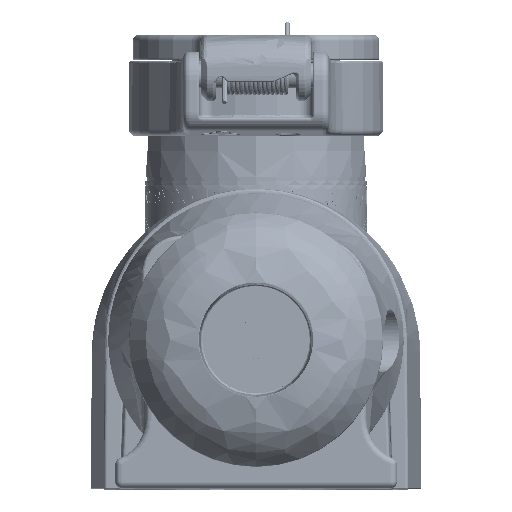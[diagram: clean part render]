
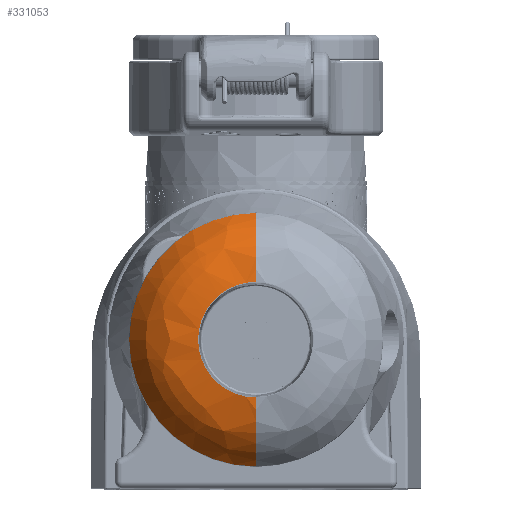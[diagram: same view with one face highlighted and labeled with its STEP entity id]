
A CAD part, top view. The second image highlights one B-rep face of the part: STEP entity #331053.
In plain terms, the highlighted free-form (B-spline) face has degree [3, 3] with [7, 4] control points.
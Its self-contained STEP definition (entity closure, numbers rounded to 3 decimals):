
#327035=CARTESIAN_POINT('',(0.,2.921,0.));
#327036=DIRECTION('',(0.,1.,0.));
#327037=DIRECTION('',(-1.,0.,0.));
#327038=AXIS2_PLACEMENT_3D('',#327035,#327036,#327037);
#327050=CARTESIAN_POINT('',(9.15,-2.126,0.));
#327051=DIRECTION('',(0.,0.,1.));
#327052=DIRECTION('',(0.907,0.421,0.));
#327053=AXIS2_PLACEMENT_3D('',#327050,#327051,#327052);
#327055=CARTESIAN_POINT('',(-9.15,-2.126,0.));
#327056=DIRECTION('',(0.,0.,-1.));
#327057=DIRECTION('',(-0.907,0.421,0.));
#327058=AXIS2_PLACEMENT_3D('',#327055,#327056,#327057);
#327080=CARTESIAN_POINT('',(0.,9.874,0.));
#327081=DIRECTION('',(0.,-1.,0.));
#327082=DIRECTION('',(1.,0.,0.));
#327083=AXIS2_PLACEMENT_3D('',#327080,#327081,#327082);
#330011=CARTESIAN_POINT('',(9.15,9.874,0.));
#330012=CARTESIAN_POINT('',(-9.15,9.874,0.));
#330013=VERTEX_POINT('',#330011);
#330014=VERTEX_POINT('',#330012);
#330031=CARTESIAN_POINT('',(20.037,2.921,
0.));
#330032=CARTESIAN_POINT('',(-20.037,2.921,
0.));
#330033=VERTEX_POINT('',#330031);
#330034=VERTEX_POINT('',#330032);
#331015=CARTESIAN_POINT('',(8.86,9.871,
-0.557));
#331016=CARTESIAN_POINT('',(13.875,9.985,
-0.873));
#331017=CARTESIAN_POINT('',(18.103,7.28,
-1.139));
#331018=CARTESIAN_POINT('',(20.109,2.672,
-1.265));
#331019=CARTESIAN_POINT('',(9.203,9.871,
4.895));
#331020=CARTESIAN_POINT('',(14.412,9.985,
7.666));
#331021=CARTESIAN_POINT('',(18.804,7.28,
10.002));
#331022=CARTESIAN_POINT('',(20.888,2.672,
11.11));
#331023=CARTESIAN_POINT('',(5.463,9.871,
8.877));
#331024=CARTESIAN_POINT('',(8.556,9.985,
13.902));
#331025=CARTESIAN_POINT('',(11.163,7.28,
18.139));
#331026=CARTESIAN_POINT('',(12.4,2.672,
20.149));
#331027=CARTESIAN_POINT('',(0.,9.871,8.877));
#331028=CARTESIAN_POINT('',(0.,9.985,13.902));
#331029=CARTESIAN_POINT('',(0.,7.28,18.139));
#331030=CARTESIAN_POINT('',(0.,2.672,20.149));
#331031=CARTESIAN_POINT('',(-5.463,9.871,
8.877));
#331032=CARTESIAN_POINT('',(-8.556,9.985,
13.902));
#331033=CARTESIAN_POINT('',(-11.163,7.28,
18.139));
#331034=CARTESIAN_POINT('',(-12.4,2.672,
20.149));
#331035=CARTESIAN_POINT('',(-9.203,9.871,
4.895));
#331036=CARTESIAN_POINT('',(-14.412,9.985,
7.666));
#331037=CARTESIAN_POINT('',(-18.804,7.28,
10.002));
#331038=CARTESIAN_POINT('',(-20.888,2.672,
11.11));
#331039=CARTESIAN_POINT('',(-8.86,9.871,
-0.557));
#331040=CARTESIAN_POINT('',(-13.875,9.985,
-0.873));
#331041=CARTESIAN_POINT('',(-18.103,7.28,
-1.139));
#331042=CARTESIAN_POINT('',(-20.109,2.672,
-1.265));
#331043=(BOUNDED_SURFACE()B_SPLINE_SURFACE(3,3,((#331015,#331016,#331017,
#331018),(#331019,#331020,#331021,#331022),(#331023,#331024,#331025,#331026),(
#331027,#331028,#331029,#331030),(#331031,#331032,#331033,#331034),(#331035,
#331036,#331037,#331038),(#331039,#331040,#331041,#331042)),.UNSPECIFIED.,.F.,
.F.,.F.)B_SPLINE_SURFACE_WITH_KNOTS((4,3,4),(4,4),(0.,1.,2.),(0.,1.),
.UNSPECIFIED.)GEOMETRIC_REPRESENTATION_ITEM()RATIONAL_B_SPLINE_SURFACE(((
1.297,1.151,1.151,1.297),(
1.024,0.909,0.909,1.024),(
1.024,0.909,0.909,1.024),(
1.297,1.151,1.151,1.297),(
1.024,0.909,0.909,1.024),(
1.024,0.909,0.909,1.024),(
1.297,1.151,1.151,1.297)))REPRESENTATION_ITEM('')SURFACE());
#331044=ORIENTED_EDGE('',*,*,#331005,.F.);
#331046=ORIENTED_EDGE('',*,*,#331045,.T.);
#331048=ORIENTED_EDGE('',*,*,#331047,.F.);
#331050=ORIENTED_EDGE('',*,*,#331049,.F.);
#331051=EDGE_LOOP('',(#331044,#331046,#331048,#331050));
#331052=FACE_OUTER_BOUND('',#331051,.F.);
#331053=ADVANCED_FACE('',(#331052),#331043,.T.);
#327039=CIRCLE('',#327038,20.037);
#327054=CIRCLE('',#327053,12.);
#327059=CIRCLE('',#327058,12.);
#327084=CIRCLE('',#327083,9.15);
#331005=EDGE_CURVE('',#330034,#330033,#327039,.T.);
#331045=EDGE_CURVE('',#330034,#330014,#327059,.T.);
#331047=EDGE_CURVE('',#330013,#330014,#327084,.T.);
#331049=EDGE_CURVE('',#330033,#330013,#327054,.T.);
